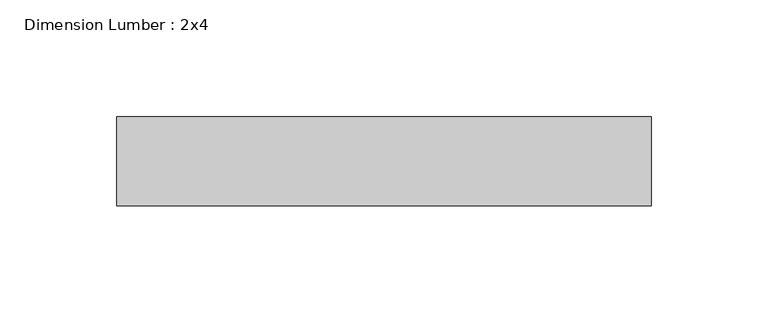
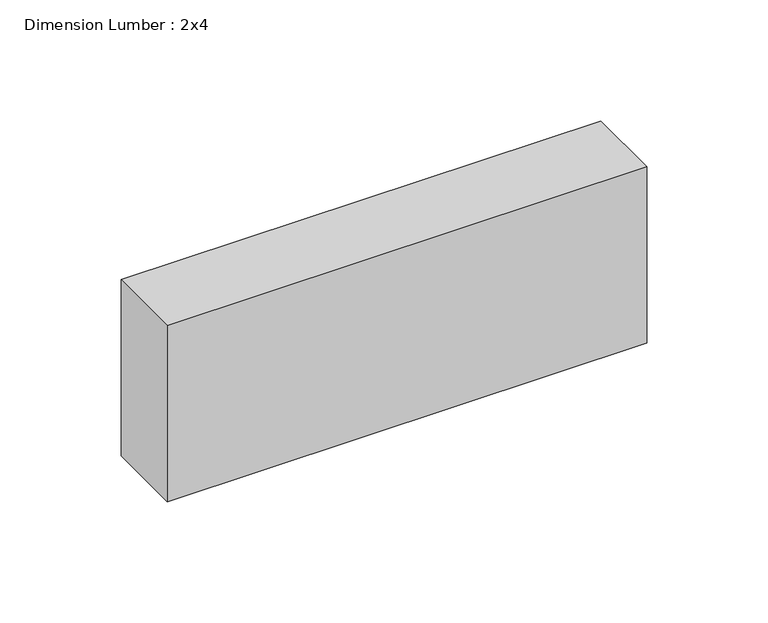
"""IFC4 building model written with IfcOpenShell, lengths in millimetres: beam geometry, Dimension Lumber : 2x4."""

from ifc_helpers import new_model, si_unit, frame, origin, place, context, project, spatial, polyline, outline, extrude, source, transform, mapped, element, save


def dimension_lumber_2x4_7c62d23e(model_context):
    return source(origin(), model_context, "Body", "SweptSolid", [
        extrude(outline(polyline([(114.3, 19.05), (114.3, -19.05), (-114.3, -19.05), (-114.3, 19.05), (114.3, 19.05)])), frame((0.0, 0.0, -44.45), z_axis=(0.0, 0.0, 1.0), x_axis=(1.0, 0.0, 0.0)), (0.0, 0.0, 1.0), 88.9),
    ])


if __name__ == "__main__":
    model = new_model("IFC4")
    model_context = context("Model", 3, world=origin())
    ifc_project = project(units=[si_unit("LENGTHUNIT", "METRE", prefix="MILLI")], contexts=[model_context])
    site = spatial("IfcSite", under=ifc_project)
    building = spatial("IfcBuilding", under=site)
    placement = place(None, origin())
    dimension_lumber_2x4_shape = dimension_lumber_2x4_7c62d23e(model_context)
    element("IfcBeam", 1, ObjectType="Dimension Lumber : 2x4", at=placement, inside=building, context=model_context, shape_type="MappedRepresentation", body=[
        mapped(dimension_lumber_2x4_shape, transform((0.0, 0.0, 0.0), x_axis=(1.0, 0.0, 0.0), y_axis=(0.0, 1.0, 0.0), z_axis=(0.0, 0.0, 1.0))),
    ])
    save(model, "model.ifc")
